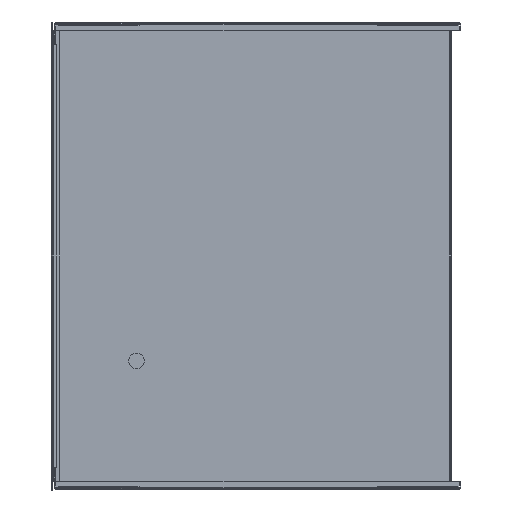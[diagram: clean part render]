
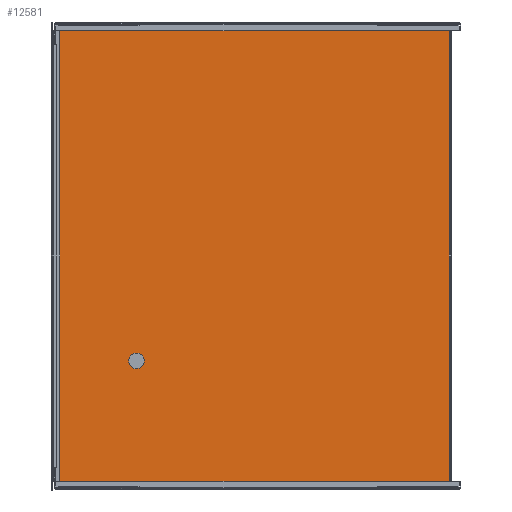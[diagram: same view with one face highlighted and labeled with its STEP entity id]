
A CAD part, left-side view. The second image highlights one B-rep face of the part: STEP entity #12581.
In plain terms, the highlighted planar face has unit normal (-1, 0, 0).
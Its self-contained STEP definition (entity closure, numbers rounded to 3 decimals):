
#537 = CARTESIAN_POINT ( 'NONE',  ( -300., 1.3, 114.326 ) ) ;
#605 = CARTESIAN_POINT ( 'NONE',  ( -300., 378.8, -308.874 ) ) ;
#613 = CARTESIAN_POINT ( 'NONE',  ( -300., 293.8, -207.074 ) ) ;
#621 = CARTESIAN_POINT ( 'NONE',  ( -300., 308.8, -207.074 ) ) ;
#1498 = VERTEX_POINT ( 'NONE', #4846 ) ;
#1501 = VERTEX_POINT ( 'NONE', #4897 ) ;
#1561 = VERTEX_POINT ( 'NONE', #4139 ) ;
#1580 = VERTEX_POINT ( 'NONE', #4187 ) ;
#2832 = FACE_BOUND ( 'NONE', #8606, .T. ) ;
#2835 = FACE_OUTER_BOUND ( 'NONE', #8825, .T. ) ;
#3217 = LINE ( 'NONE', #15270, #3221 ) ;
#3221 = VECTOR ( 'NONE', #15267, 1000. ) ;
#3275 = LINE ( 'NONE', #15377, #3278 ) ;
#3278 = VECTOR ( 'NONE', #15372, 1000. ) ;
#3291 = LINE ( 'NONE', #15401, #3295 ) ;
#3295 = VECTOR ( 'NONE', #15406, 1000. ) ;
#3320 = CIRCLE ( 'NONE', #8371, 7.5 ) ;
#3324 = LINE ( 'NONE', #11812, #3326 ) ;
#3326 = VECTOR ( 'NONE', #11813, 1000. ) ;
#4139 = CARTESIAN_POINT ( 'NONE',  ( -300., 1.3, -327.074 ) ) ;
#4187 = CARTESIAN_POINT ( 'NONE',  ( -300., 378.8, -327.074 ) ) ;
#4763 = CARTESIAN_POINT ( 'NONE',  ( -300., 0., -106.374 ) ) ;
#4769 = PLANE ( 'NONE',  #7718 ) ;
#4771 = DIRECTION ( 'NONE',  ( -1., 0., 0. ) ) ;
#4772 = DIRECTION ( 'NONE',  ( 0., -1., 0. ) ) ;
#4846 = CARTESIAN_POINT ( 'NONE',  ( -300., 377.5, -308.874 ) ) ;
#4897 = CARTESIAN_POINT ( 'NONE',  ( -300., 378.8, 114.326 ) ) ;
#5069 = LINE ( 'NONE', #12104, #5073 ) ;
#5073 = VECTOR ( 'NONE', #12102, 1000. ) ;
#5305 = LINE ( 'NONE', #14179, #5309 ) ;
#5309 = VECTOR ( 'NONE', #14185, 1000. ) ;
#5353 = LINE ( 'NONE', #14295, #5356 ) ;
#5356 = VECTOR ( 'NONE', #14296, 1000. ) ;
#5510 = LINE ( 'NONE', #9443, #5512 ) ;
#5512 = VECTOR ( 'NONE', #9444, 1000. ) ;
#7701 = CARTESIAN_POINT ( 'NONE',  ( -300., 301.3, -207.074 ) ) ;
#7703 = DIRECTION ( 'NONE',  ( -1., 0., 0. ) ) ;
#7705 = DIRECTION ( 'NONE',  ( 0., -1., 0. ) ) ;
#7718 = AXIS2_PLACEMENT_3D ( 'NONE', #4763, #4771, #4772 ) ;
#8227 = AXIS2_PLACEMENT_3D ( 'NONE', #7701, #7703, #7705 ) ;
#8371 = AXIS2_PLACEMENT_3D ( 'NONE', #11814, #11815, #11816 ) ;
#8606 = EDGE_LOOP ( 'NONE', ( #14972, #14974 ) ) ;
#8825 = EDGE_LOOP ( 'NONE', ( #14975, #14977, #14979, #14981, #14983, #14985, #14986, #14987 ) ) ;
#9443 = CARTESIAN_POINT ( 'NONE',  ( -300., 377.5, 96.126 ) ) ;
#9444 = DIRECTION ( 'NONE',  ( 0., 0., -1. ) ) ;
#10229 = VERTEX_POINT ( 'NONE', #16338 ) ;
#10247 = VERTEX_POINT ( 'NONE', #16353 ) ;
#10258 = VERTEX_POINT ( 'NONE', #537 ) ;
#10326 = VERTEX_POINT ( 'NONE', #605 ) ;
#10334 = VERTEX_POINT ( 'NONE', #613 ) ;
#10342 = VERTEX_POINT ( 'NONE', #621 ) ;
#11292 = CIRCLE ( 'NONE', #8227, 7.5 ) ;
#11812 = CARTESIAN_POINT ( 'NONE',  ( -300., 0., 96.126 ) ) ;
#11813 = DIRECTION ( 'NONE',  ( 0., -1., 0. ) ) ;
#11814 = CARTESIAN_POINT ( 'NONE',  ( -300., 301.3, -207.074 ) ) ;
#11815 = DIRECTION ( 'NONE',  ( -1., 0., 0. ) ) ;
#11816 = DIRECTION ( 'NONE',  ( 0., -1., 0. ) ) ;
#12102 = DIRECTION ( 'NONE',  ( 0., 0., 1. ) ) ;
#12104 = CARTESIAN_POINT ( 'NONE',  ( -300., 378.8, 115.626 ) ) ;
#12581 = ADVANCED_FACE ( 'NONE', ( #2832, #2835 ), #4769, .T. ) ;
#12919 = EDGE_CURVE ( 'NONE', #1561, #10258, #3217, .T. ) ;
#12959 = EDGE_CURVE ( 'NONE', #10258, #1501, #3275, .T. ) ;
#12970 = EDGE_CURVE ( 'NONE', #1498, #10326, #3291, .T. ) ;
#12989 = EDGE_CURVE ( 'NONE', #10334, #10342, #3320, .T. ) ;
#12991 = EDGE_CURVE ( 'NONE', #10247, #10229, #3324, .T. ) ;
#13094 = EDGE_CURVE ( 'NONE', #10247, #1501, #5069, .T. ) ;
#13285 = EDGE_CURVE ( 'NONE', #1580, #10326, #5305, .T. ) ;
#13321 = EDGE_CURVE ( 'NONE', #1580, #1561, #5353, .T. ) ;
#13435 = EDGE_CURVE ( 'NONE', #10229, #1498, #5510, .T. ) ;
#13547 = EDGE_CURVE ( 'NONE', #10342, #10334, #11292, .T. ) ;
#14179 = CARTESIAN_POINT ( 'NONE',  ( -300., 378.8, 115.626 ) ) ;
#14185 = DIRECTION ( 'NONE',  ( 0., 0., 1. ) ) ;
#14295 = CARTESIAN_POINT ( 'NONE',  ( -300., 378.8, -327.074 ) ) ;
#14296 = DIRECTION ( 'NONE',  ( 0., -1., 0. ) ) ;
#14972 = ORIENTED_EDGE ( 'NONE', *, *, #12989, .F. ) ;
#14974 = ORIENTED_EDGE ( 'NONE', *, *, #13547, .F. ) ;
#14975 = ORIENTED_EDGE ( 'NONE', *, *, #13285, .F. ) ;
#14977 = ORIENTED_EDGE ( 'NONE', *, *, #13321, .T. ) ;
#14979 = ORIENTED_EDGE ( 'NONE', *, *, #12919, .T. ) ;
#14981 = ORIENTED_EDGE ( 'NONE', *, *, #12959, .T. ) ;
#14983 = ORIENTED_EDGE ( 'NONE', *, *, #13094, .F. ) ;
#14985 = ORIENTED_EDGE ( 'NONE', *, *, #12991, .T. ) ;
#14986 = ORIENTED_EDGE ( 'NONE', *, *, #13435, .T. ) ;
#14987 = ORIENTED_EDGE ( 'NONE', *, *, #12970, .T. ) ;
#15267 = DIRECTION ( 'NONE',  ( 0., 0., 1. ) ) ;
#15270 = CARTESIAN_POINT ( 'NONE',  ( -300., 1.3, -106.374 ) ) ;
#15372 = DIRECTION ( 'NONE',  ( 0., 1., 0. ) ) ;
#15377 = CARTESIAN_POINT ( 'NONE',  ( -300., 1.3, 114.326 ) ) ;
#15401 = CARTESIAN_POINT ( 'NONE',  ( -300., 0., -308.874 ) ) ;
#15406 = DIRECTION ( 'NONE',  ( 0., 1., 0. ) ) ;
#16338 = CARTESIAN_POINT ( 'NONE',  ( -300., 377.5, 96.126 ) ) ;
#16353 = CARTESIAN_POINT ( 'NONE',  ( -300., 378.8, 96.126 ) ) ;
